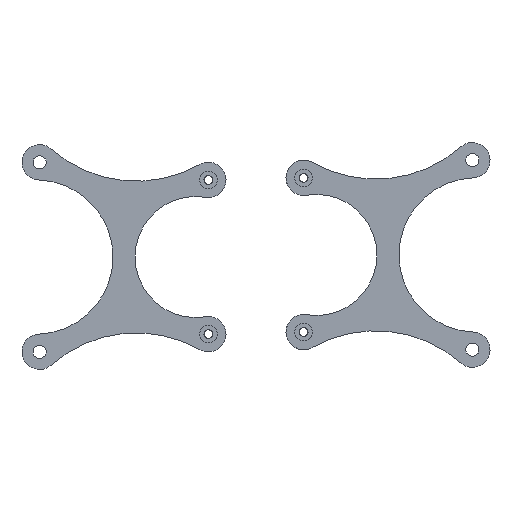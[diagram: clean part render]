
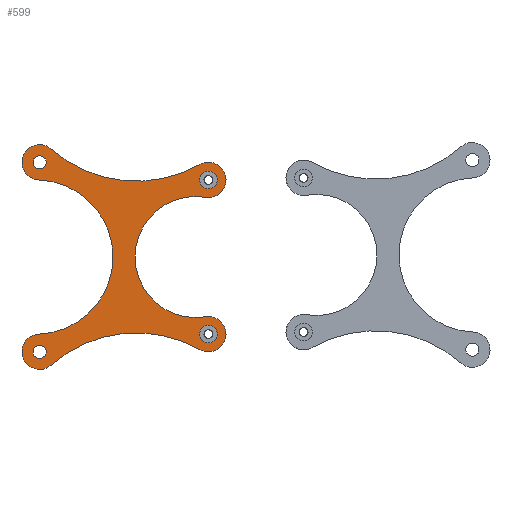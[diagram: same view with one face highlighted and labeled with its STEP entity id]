
A CAD part, front view. The second image highlights one B-rep face of the part: STEP entity #599.
In plain terms, the highlighted planar face has unit normal (0, -1, 0).
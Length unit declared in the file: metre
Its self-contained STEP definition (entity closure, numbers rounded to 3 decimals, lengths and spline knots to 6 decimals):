
#47=PLANE('',#690);
#110=ORIENTED_EDGE('',*,*,#244,.F.);
#111=ORIENTED_EDGE('',*,*,#245,.F.);
#112=ORIENTED_EDGE('',*,*,#224,.T.);
#113=ORIENTED_EDGE('',*,*,#241,.T.);
#114=ORIENTED_EDGE('',*,*,#238,.T.);
#115=ORIENTED_EDGE('',*,*,#235,.F.);
#116=ORIENTED_EDGE('',*,*,#233,.F.);
#117=ORIENTED_EDGE('',*,*,#231,.F.);
#118=ORIENTED_EDGE('',*,*,#229,.T.);
#119=ORIENTED_EDGE('',*,*,#227,.T.);
#120=ORIENTED_EDGE('',*,*,#240,.F.);
#121=ORIENTED_EDGE('',*,*,#243,.T.);
#224=EDGE_CURVE('',#300,#301,#360,.T.);
#227=EDGE_CURVE('',#302,#300,#361,.T.);
#229=EDGE_CURVE('',#303,#302,#362,.T.);
#231=EDGE_CURVE('',#303,#304,#363,.T.);
#233=EDGE_CURVE('',#304,#305,#364,.T.);
#235=EDGE_CURVE('',#305,#306,#365,.T.);
#238=EDGE_CURVE('',#308,#306,#367,.T.);
#240=EDGE_CURVE('',#309,#309,#368,.T.);
#241=EDGE_CURVE('',#301,#308,#369,.T.);
#243=EDGE_CURVE('',#311,#311,#371,.T.);
#244=EDGE_CURVE('',#312,#312,#372,.T.);
#245=EDGE_CURVE('',#313,#313,#373,.T.);
#300=VERTEX_POINT('',#1006);
#301=VERTEX_POINT('',#1007);
#302=VERTEX_POINT('',#1012);
#303=VERTEX_POINT('',#1016);
#304=VERTEX_POINT('',#1020);
#305=VERTEX_POINT('',#1024);
#306=VERTEX_POINT('',#1028);
#308=VERTEX_POINT('',#1034);
#309=VERTEX_POINT('',#1038);
#311=VERTEX_POINT('',#1045);
#312=VERTEX_POINT('',#1048);
#313=VERTEX_POINT('',#1050);
#360=CIRCLE('',#669,0.029241);
#361=CIRCLE('',#671,0.004);
#362=CIRCLE('',#673,0.017517);
#363=CIRCLE('',#675,0.004);
#364=CIRCLE('',#677,0.029241);
#365=CIRCLE('',#679,0.004);
#367=CIRCLE('',#682,0.01374);
#368=CIRCLE('',#684,0.0015);
#369=CIRCLE('',#686,0.004);
#371=CIRCLE('',#689,0.0015);
#372=CIRCLE('',#691,0.002);
#373=CIRCLE('',#692,0.002);
#427=EDGE_LOOP('',(#110));
#428=EDGE_LOOP('',(#111));
#429=EDGE_LOOP('',(#112,#113,#114,#115,#116,#117,#118,#119));
#430=EDGE_LOOP('',(#120));
#431=EDGE_LOOP('',(#121));
#503=FACE_BOUND('',#427,.T.);
#504=FACE_BOUND('',#428,.T.);
#505=FACE_BOUND('',#429,.T.);
#506=FACE_BOUND('',#430,.T.);
#507=FACE_BOUND('',#431,.T.);
#599=ADVANCED_FACE('',(#503,#504,#505,#506,#507),#47,.F.);
#669=AXIS2_PLACEMENT_3D('',#1005,#790,#791);
#671=AXIS2_PLACEMENT_3D('',#1011,#796,#797);
#673=AXIS2_PLACEMENT_3D('',#1015,#801,#802);
#675=AXIS2_PLACEMENT_3D('',#1019,#806,#807);
#677=AXIS2_PLACEMENT_3D('',#1023,#811,#812);
#679=AXIS2_PLACEMENT_3D('',#1027,#816,#817);
#682=AXIS2_PLACEMENT_3D('',#1033,#823,#824);
#684=AXIS2_PLACEMENT_3D('',#1037,#828,#829);
#686=AXIS2_PLACEMENT_3D('',#1040,#832,#833);
#689=AXIS2_PLACEMENT_3D('',#1044,#838,#839);
#690=AXIS2_PLACEMENT_3D('',#1046,#840,#841);
#691=AXIS2_PLACEMENT_3D('',#1047,#842,#843);
#692=AXIS2_PLACEMENT_3D('',#1049,#844,#845);
#790=DIRECTION('',(0.,1.,0.));
#791=DIRECTION('',(1.,0.,0.));
#796=DIRECTION('',(0.,-1.,0.));
#797=DIRECTION('',(1.,0.,0.));
#801=DIRECTION('',(0.,1.,0.));
#802=DIRECTION('',(1.,0.,0.));
#806=DIRECTION('',(0.,1.,0.));
#807=DIRECTION('',(1.,0.,0.));
#811=DIRECTION('',(0.,-1.,0.));
#812=DIRECTION('',(1.,0.,0.));
#816=DIRECTION('',(0.,1.,0.));
#817=DIRECTION('',(1.,0.,0.));
#823=DIRECTION('',(0.,1.,0.));
#824=DIRECTION('',(1.,0.,0.));
#828=DIRECTION('',(0.,-1.,0.));
#829=DIRECTION('',(1.,0.,0.));
#832=DIRECTION('',(0.,-1.,0.));
#833=DIRECTION('',(1.,0.,0.));
#838=DIRECTION('',(0.,1.,0.));
#839=DIRECTION('',(1.,0.,0.));
#840=DIRECTION('',(0.,1.,0.));
#841=DIRECTION('',(1.,0.,0.));
#842=DIRECTION('',(0.,-1.,0.));
#843=DIRECTION('',(-1.,0.,0.));
#844=DIRECTION('',(0.,-1.,0.));
#845=DIRECTION('',(-1.,0.,0.));
#1005=CARTESIAN_POINT('',(0.002815,0.,-0.046451));
#1006=CARTESIAN_POINT('',(-0.016507,0.,-0.024502));
#1007=CARTESIAN_POINT('',(0.017184,0.,-0.020984));
#1011=CARTESIAN_POINT('',(-0.01915,0.,-0.0215));
#1012=CARTESIAN_POINT('',(-0.019311,0.,-0.017503));
#1015=CARTESIAN_POINT('',(-0.020017,0.,0.));
#1016=CARTESIAN_POINT('',(-0.019311,0.,0.017503));
#1019=CARTESIAN_POINT('',(-0.01915,0.,0.0215));
#1020=CARTESIAN_POINT('',(-0.016507,0.,0.024502));
#1023=CARTESIAN_POINT('',(0.002815,0.,0.046451));
#1024=CARTESIAN_POINT('',(0.017184,0.,0.020984));
#1027=CARTESIAN_POINT('',(0.01915,0.,0.0175));
#1028=CARTESIAN_POINT('',(0.018494,0.,0.013554));
#1033=CARTESIAN_POINT('',(0.01624,0.,0.));
#1034=CARTESIAN_POINT('',(0.018494,0.,-0.013554));
#1037=CARTESIAN_POINT('',(-0.01915,0.,0.0215));
#1038=CARTESIAN_POINT('',(-0.01765,0.,0.0215));
#1040=CARTESIAN_POINT('',(0.01915,0.,-0.0175));
#1044=CARTESIAN_POINT('',(-0.01915,0.,-0.0215));
#1045=CARTESIAN_POINT('',(-0.01765,0.,-0.0215));
#1046=CARTESIAN_POINT('',(0.061537,0.,-0.001146));
#1047=CARTESIAN_POINT('',(0.01915,0.,0.0175));
#1048=CARTESIAN_POINT('',(0.01715,0.,0.0175));
#1049=CARTESIAN_POINT('',(0.01915,0.,-0.0175));
#1050=CARTESIAN_POINT('',(0.01715,0.,-0.0175));
